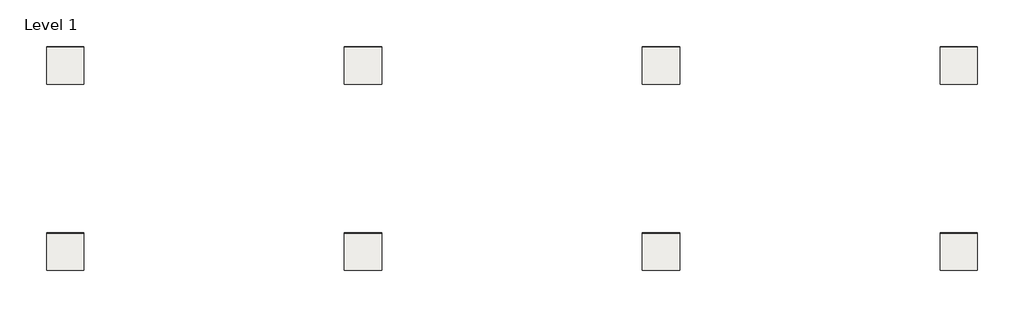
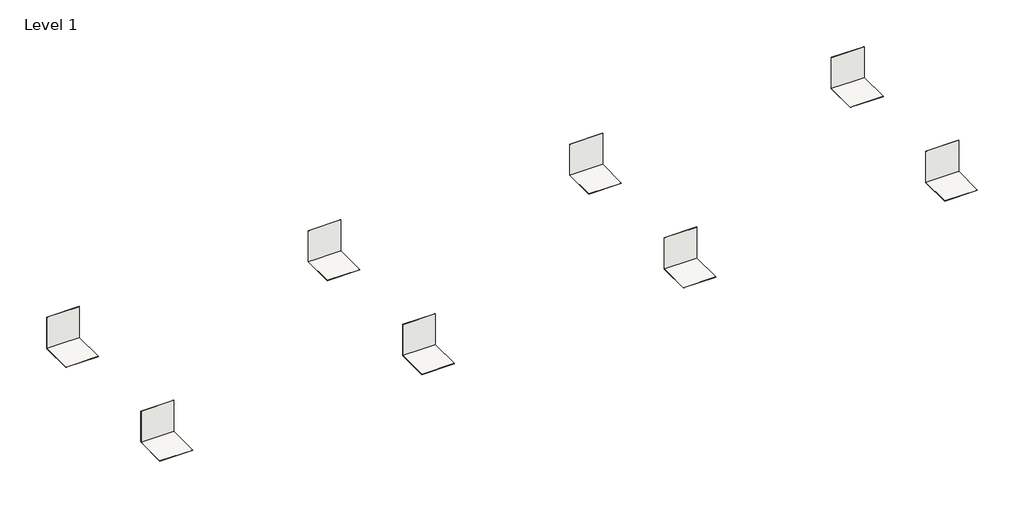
# One storey: 16 coverings.
"""IFC4 building model written with IfcOpenShell, lengths in millimetres."""

from ifc_helpers import new_model, si_unit, frame, origin, origin_with_axes, place, context, project, spatial, polyline, outline, extrude, element, save

model = new_model("IFC4")

# Units and contexts
model_context = context("Model", 3, world=origin())
ifc_project = project(units=[si_unit("LENGTHUNIT", "METRE", prefix="MILLI")], contexts=[model_context])

# Site, building, storey
site = spatial("IfcSite", under=ifc_project)
building = spatial("IfcBuilding", under=site)
storey = spatial("IfcBuildingStorey", under=building, Name="Level 1", Elevation=0.0)

# Coverings
placement = place(None, origin())
element("IfcCovering", 1, ObjectType="REVIGRÉS-CROMATICA-TRIO-20x22-SOFT-Cromatica_autumn", at=placement, inside=storey, context=model_context, shape_type="SweptSolid", body=[
    extrude(outline(polyline([(4002.0475963, -5601.5675711), (3002.0475963, -5601.5675711), (3002.0475963, -4601.5675711), (4002.0475963, -4601.5675711), (4002.0475963, -5601.5675711)])), frame((0.0, 0.0, -8.5), z_axis=(0.0, 0.0, 1.0), x_axis=(1.0, 0.0, 0.0)), (0.0, 0.0, 1.0), 8.5),
])
element("IfcCovering", 2, ObjectType="REVIGRÉS-CROMATICA-TRIO-20x22-SOFT-Cromatica_autumn", at=placement, inside=storey, context=model_context, shape_type="SweptSolid", body=[
    extrude(outline(polyline([(4002.0475963, -4601.5675711), (3002.0475963, -4601.5675711), (3002.0475963, -4593.0675711), (4002.0475963, -4593.0675711), (4002.0475963, -4601.5675711)])), origin_with_axes(), (0.0, 0.0, 1.0), 1000.0),
])
element("IfcCovering", 3, ObjectType="REVIGRÉS-CROMATICA-TRIO-20x22-SOFT-Cromatica_bloom", at=placement, inside=storey, context=model_context, shape_type="SweptSolid", body=[
    extrude(outline(polyline([(12002.0475963, -5601.5675711), (11002.0475963, -5601.5675711), (11002.0475963, -4601.5675711), (12002.0475963, -4601.5675711), (12002.0475963, -5601.5675711)])), frame((0.0, 0.0, -8.5), z_axis=(0.0, 0.0, 1.0), x_axis=(1.0, 0.0, 0.0)), (0.0, 0.0, 1.0), 8.5),
])
element("IfcCovering", 4, ObjectType="REVIGRÉS-CROMATICA-TRIO-20x22-SOFT-Cromatica_bloom", at=placement, inside=storey, context=model_context, shape_type="SweptSolid", body=[
    extrude(outline(polyline([(12002.0475963, -4601.5675711), (11002.0475963, -4601.5675711), (11002.0475963, -4593.0675711), (12002.0475963, -4593.0675711), (12002.0475963, -4601.5675711)])), origin_with_axes(), (0.0, 0.0, 1.0), 1000.0),
])
element("IfcCovering", 5, ObjectType="REVIGRÉS-CROMATICA-TRIO-20x22-SOFT-Cromatica_ChillOut", at=placement, inside=storey, context=model_context, shape_type="SweptSolid", body=[
    extrude(outline(polyline([(20002.0475963, -5601.5675711), (19002.0475963, -5601.5675711), (19002.0475963, -4601.5675711), (20002.0475963, -4601.5675711), (20002.0475963, -5601.5675711)])), frame((0.0, 0.0, -8.5), z_axis=(0.0, 0.0, 1.0), x_axis=(1.0, 0.0, 0.0)), (0.0, 0.0, 1.0), 8.5),
])
element("IfcCovering", 6, ObjectType="REVIGRÉS-CROMATICA-TRIO-20x22-SOFT-Cromatica_ChillOut", at=placement, inside=storey, context=model_context, shape_type="SweptSolid", body=[
    extrude(outline(polyline([(20002.0475963, -4601.5675711), (19002.0475963, -4601.5675711), (19002.0475963, -4593.0675711), (20002.0475963, -4593.0675711), (20002.0475963, -4601.5675711)])), origin_with_axes(), (0.0, 0.0, 1.0), 1000.0),
])
element("IfcCovering", 7, ObjectType="REVIGRÉS-CROMATICA-TRIO-20x22-SOFT-Cromatica_freshy", at=placement, inside=storey, context=model_context, shape_type="SweptSolid", body=[
    extrude(outline(polyline([(28002.0475963, -5601.5675711), (27002.0475963, -5601.5675711), (27002.0475963, -4601.5675711), (28002.0475963, -4601.5675711), (28002.0475963, -5601.5675711)])), frame((0.0, 0.0, -8.5), z_axis=(0.0, 0.0, 1.0), x_axis=(1.0, 0.0, 0.0)), (0.0, 0.0, 1.0), 8.5),
])
element("IfcCovering", 8, ObjectType="REVIGRÉS-CROMATICA-TRIO-20x22-SOFT-Cromatica_freshy", at=placement, inside=storey, context=model_context, shape_type="SweptSolid", body=[
    extrude(outline(polyline([(28002.0475963, -4601.5675711), (27002.0475963, -4601.5675711), (27002.0475963, -4593.0675711), (28002.0475963, -4593.0675711), (28002.0475963, -4601.5675711)])), origin_with_axes(), (0.0, 0.0, 1.0), 1000.0),
])
element("IfcCovering", 9, ObjectType="REVIGRÉS-CROMATICA-TRIO-20x22-SOFT-Cromatica_safari", at=placement, inside=storey, context=model_context, shape_type="SweptSolid", body=[
    extrude(outline(polyline([(4002.0475963, -10601.5675711), (3002.0475963, -10601.5675711), (3002.0475963, -9601.567571), (4002.0475963, -9601.567571), (4002.0475963, -10601.5675711)])), frame((0.0, 0.0, -8.5), z_axis=(0.0, 0.0, 1.0), x_axis=(1.0, 0.0, 0.0)), (0.0, 0.0, 1.0), 8.5),
])
element("IfcCovering", 10, ObjectType="REVIGRÉS-CROMATICA-TRIO-20x22-SOFT-Cromatica_safari", at=placement, inside=storey, context=model_context, shape_type="SweptSolid", body=[
    extrude(outline(polyline([(4002.0475963, -9601.5675711), (3002.0475963, -9601.5675711), (3002.0475963, -9593.0675711), (4002.0475963, -9593.0675711), (4002.0475963, -9601.5675711)])), origin_with_axes(), (0.0, 0.0, 1.0), 1000.0),
])
element("IfcCovering", 11, ObjectType="REVIGRÉS-CROMATICA-TRIO-20x22-SOFT-Cromatica_SpringSun", at=placement, inside=storey, context=model_context, shape_type="SweptSolid", body=[
    extrude(outline(polyline([(12002.0475963, -10601.5675711), (11002.0475963, -10601.5675711), (11002.0475963, -9601.567571), (12002.0475963, -9601.567571), (12002.0475963, -10601.5675711)])), frame((0.0, 0.0, -8.5), z_axis=(0.0, 0.0, 1.0), x_axis=(1.0, 0.0, 0.0)), (0.0, 0.0, 1.0), 8.5),
])
element("IfcCovering", 12, ObjectType="REVIGRÉS-CROMATICA-TRIO-20x22-SOFT-Cromatica_SpringSun", at=placement, inside=storey, context=model_context, shape_type="SweptSolid", body=[
    extrude(outline(polyline([(12002.0475963, -9601.5675711), (11002.0475963, -9601.5675711), (11002.0475963, -9593.0675711), (12002.0475963, -9593.0675711), (12002.0475963, -9601.5675711)])), origin_with_axes(), (0.0, 0.0, 1.0), 1000.0),
])
element("IfcCovering", 13, ObjectType="REVIGRÉS-CROMATICA-TRIO-20x22-SOFT-Cromatica_SummerNight", at=placement, inside=storey, context=model_context, shape_type="SweptSolid", body=[
    extrude(outline(polyline([(20002.0475963, -10601.5675711), (19002.0475963, -10601.5675711), (19002.0475963, -9601.567571), (20002.0475963, -9601.567571), (20002.0475963, -10601.5675711)])), frame((0.0, 0.0, -8.5), z_axis=(0.0, 0.0, 1.0), x_axis=(1.0, 0.0, 0.0)), (0.0, 0.0, 1.0), 8.5),
])
element("IfcCovering", 14, ObjectType="REVIGRÉS-CROMATICA-TRIO-20x22-SOFT-Cromatica_SummerNight", at=placement, inside=storey, context=model_context, shape_type="SweptSolid", body=[
    extrude(outline(polyline([(20002.0475963, -9601.5675711), (19002.0475963, -9601.5675711), (19002.0475963, -9593.0675711), (20002.0475963, -9593.0675711), (20002.0475963, -9601.5675711)])), origin_with_axes(), (0.0, 0.0, 1.0), 1000.0),
])
element("IfcCovering", 15, ObjectType="REVIGRÉS-CROMATICA-TRIO-20x22-SOFT-Cromatica_WinterFall", at=placement, inside=storey, context=model_context, shape_type="SweptSolid", body=[
    extrude(outline(polyline([(28002.0475963, -10601.5675711), (27002.0475963, -10601.5675711), (27002.0475963, -9601.567571), (28002.0475963, -9601.567571), (28002.0475963, -10601.5675711)])), frame((0.0, 0.0, -8.5), z_axis=(0.0, 0.0, 1.0), x_axis=(1.0, 0.0, 0.0)), (0.0, 0.0, 1.0), 8.5),
])
element("IfcCovering", 16, ObjectType="REVIGRÉS-CROMATICA-TRIO-20x22-SOFT-Cromatica_Winter", at=placement, inside=storey, context=model_context, shape_type="SweptSolid", body=[
    extrude(outline(polyline([(28002.0475963, -9601.5675711), (27002.0475963, -9601.5675711), (27002.0475963, -9593.0675711), (28002.0475963, -9593.0675711), (28002.0475963, -9601.5675711)])), origin_with_axes(), (0.0, 0.0, 1.0), 1000.0),
])

save(model, "model.ifc")
